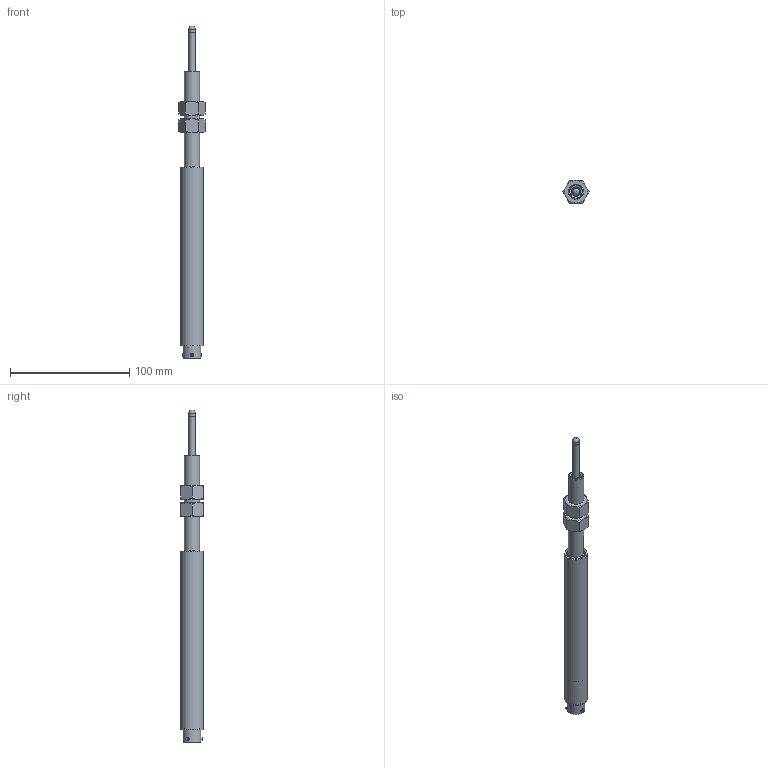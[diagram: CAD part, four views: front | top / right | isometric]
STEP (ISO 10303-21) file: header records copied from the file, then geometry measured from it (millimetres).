
FILE_DESCRIPTION(/* description */ (''),/* implementation_level */ '2;1');
FILE_NAME(/* name */ 'F:\GH SERIES\GH-750-A-XXXX\GH-750-A-500\GH-750-A-500 ASS''Y.iam.stp',/* time_stamp */ '2021-11-17T12:40:14-05:00',/* author */ ('Justin'),/* organization */ (''),/* preprocessor_version */ 'ST-DEVELOPER v18.1',/* originating_system */ 'Autodesk Inventor 2022',/* authorisation */ '');
FILE_SCHEMA (('AUTOMOTIVE_DESIGN { 1 0 10303 214 3 1 1 }'));
Length unit declared in the file: inch
Products named in the file (4): GH-750-A-500 ASS'Y; GH-750-A-500 SHAFT_SW; AS 2465 - 1/2  UNF; GH-750-A-500 Housing_SW
Assembly tree (4 placements, depth 2):
  GH-750-A-500 ASS'Y
    GH-750-A-500 SHAFT_SW
    AS 2465 - 1/2  UNF  x2
    GH-750-A-500 Housing_SW
Bounding box: 22 x 19.05 x 278.03 mm (x, y, z)
Volume: 29373.4 mm3; surface area: 31084 mm2
Topology: 12 solids, 12 shells, 184 faces, 367 edges, 234 vertices
Faces by surface type: plane 75, cylinder 59, cone 43, torus 4, bspline 2, sphere 1
Full cylindrical faces by diameter (mm): 0.762 x12, 2.032 x3, 2.845 x3, 3.048 x3, 4.826 x2, 5.334 x4, 5.397 x1, 7.671 x2, 7.874 x1, 11.328 x2, 12.7 x1, 13.208 x1, 14.986 x1, 15.748 x2, 16.51 x1, 17.069 x1, 18.034 x1, 18.415 x3, 19.05 x1
Entity records: 4899 total; most frequent: CARTESIAN_POINT 1116, DIRECTION 781, ORIENTED_EDGE 630, AXIS2_PLACEMENT_3D 332, EDGE_CURVE 315, VERTEX_POINT 205, EDGE_LOOP 204, CIRCLE 165
